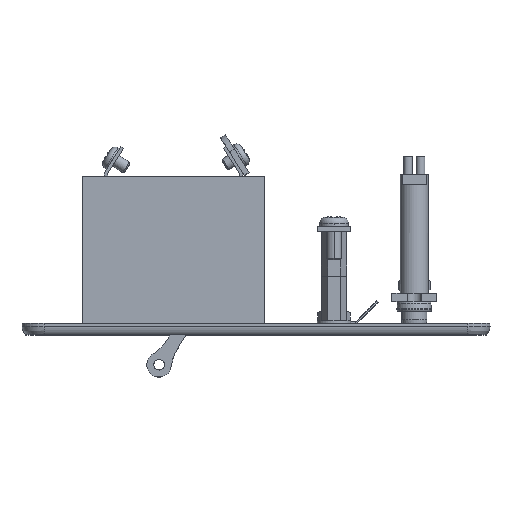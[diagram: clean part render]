
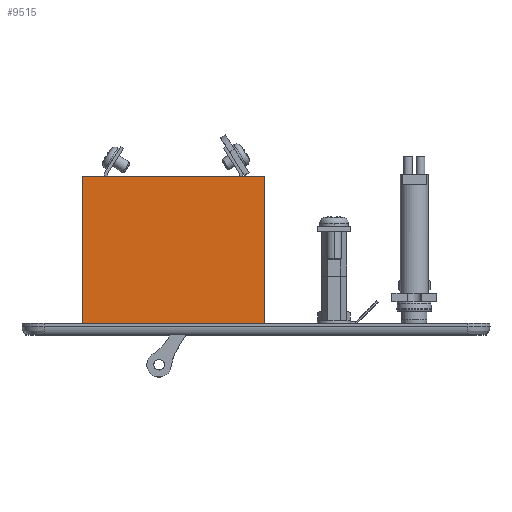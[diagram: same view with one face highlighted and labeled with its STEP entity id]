
A CAD part, top view. The second image highlights one B-rep face of the part: STEP entity #9515.
In plain terms, the highlighted planar face has unit normal (0, 0, 1) as drawn and (0, 1, 0) by its records, which use the part's own axes.
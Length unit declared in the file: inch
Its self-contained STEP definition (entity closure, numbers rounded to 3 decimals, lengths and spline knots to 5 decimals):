
#8643=CARTESIAN_POINT('',(-0.6921,0.375,1.025));
#8644=VERTEX_POINT('',#8643);
#8651=CARTESIAN_POINT('',(-0.6921,0.375,-1.025));
#8652=VERTEX_POINT('',#8651);
#8653=CARTESIAN_POINT('',(-0.6921,0.375,-1.025));
#8654=DIRECTION('',(0.0,0.0,1.0));
#8655=VECTOR('',#8654,2.05);
#8656=LINE('',#8653,#8655);
#8657=EDGE_CURVE('',#8652,#8644,#8656,.T.);
#9411=CARTESIAN_POINT('',(0.9579,0.375,-1.025));
#9412=VERTEX_POINT('',#9411);
#9419=CARTESIAN_POINT('',(0.9579,0.375,1.025));
#9420=VERTEX_POINT('',#9419);
#9421=CARTESIAN_POINT('',(0.9579,0.375,1.025));
#9422=DIRECTION('',(0.0,0.0,-1.0));
#9423=VECTOR('',#9422,2.05);
#9424=LINE('',#9421,#9423);
#9425=EDGE_CURVE('',#9420,#9412,#9424,.T.);
#9460=CARTESIAN_POINT('',(0.9579,0.375,-1.025));
#9461=DIRECTION('',(-1.0,0.0,0.0));
#9462=VECTOR('',#9461,1.65);
#9463=LINE('',#9460,#9462);
#9464=EDGE_CURVE('',#9412,#8652,#9463,.T.);
#9482=CARTESIAN_POINT('',(-0.6921,0.375,1.025));
#9483=DIRECTION('',(1.0,0.0,0.0));
#9484=VECTOR('',#9483,1.65);
#9485=LINE('',#9482,#9484);
#9486=EDGE_CURVE('',#8644,#9420,#9485,.T.);
#9504=CARTESIAN_POINT('',(-0.25238,0.375,0.11111));
#9505=DIRECTION('',(0.0,-1.0,0.0));
#9506=DIRECTION('',(1.0,0.0,0.0));
#9507=AXIS2_PLACEMENT_3D('',#9504,#9505,#9506);
#9508=PLANE('',#9507);
#9509=ORIENTED_EDGE('',*,*,#9486,.T.);
#9510=ORIENTED_EDGE('',*,*,#9425,.T.);
#9511=ORIENTED_EDGE('',*,*,#9464,.T.);
#9512=ORIENTED_EDGE('',*,*,#8657,.T.);
#9513=EDGE_LOOP('',(#9509,#9510,#9511,#9512));
#9514=FACE_OUTER_BOUND('',#9513,.T.);
#9515=ADVANCED_FACE('',(#9514),#9508,.F.);
